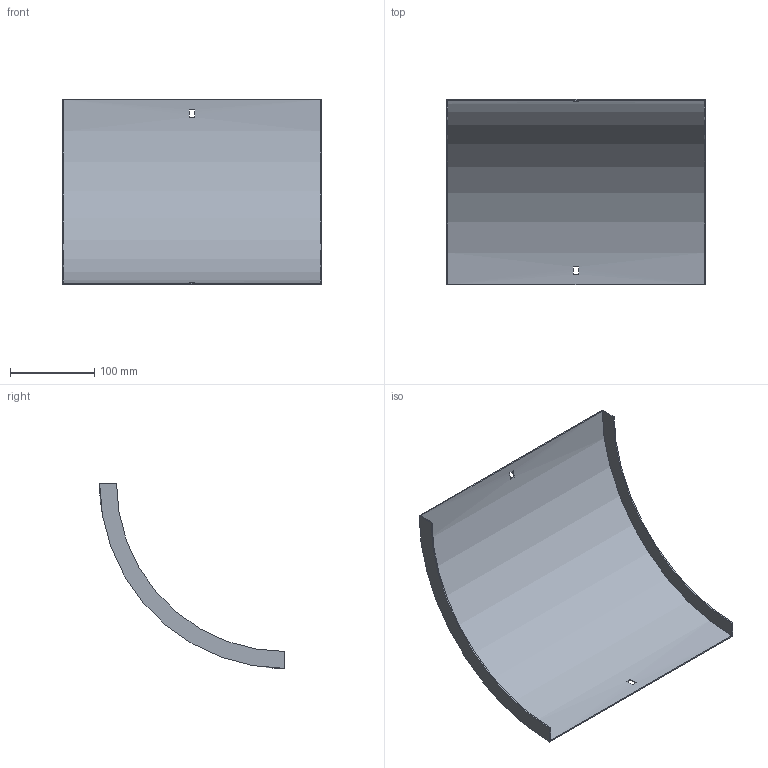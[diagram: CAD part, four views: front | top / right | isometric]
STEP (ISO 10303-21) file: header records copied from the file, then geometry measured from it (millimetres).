
FILE_DESCRIPTION (( 'STEP AP214' ), '1' );
FILE_NAME ('33N1J300.step', '2025-02-21T09:17:33', ( '' ), ( '' ), 'SwSTEP 2.0', 'SolidWorks 2023', '' );
FILE_SCHEMA (( 'AUTOMOTIVE_DESIGN' ));
Length unit declared in the file: millimetre
Products named in the file (1): 33N1J300
Bounding box: 307 x 219 x 219 mm (x, y, z)
Volume: 175850.6 mm3; surface area: 236534 mm2
Topology: 1 solids, 1 shells, 18 faces, 48 edges, 32 vertices
Faces by surface type: plane 14, cylinder 4
Entity records: 599 total; most frequent: DIRECTION 102, CARTESIAN_POINT 99, ORIENTED_EDGE 96, EDGE_CURVE 48, AXIS2_PLACEMENT_3D 35, VERTEX_POINT 32, LINE 32, VECTOR 32
